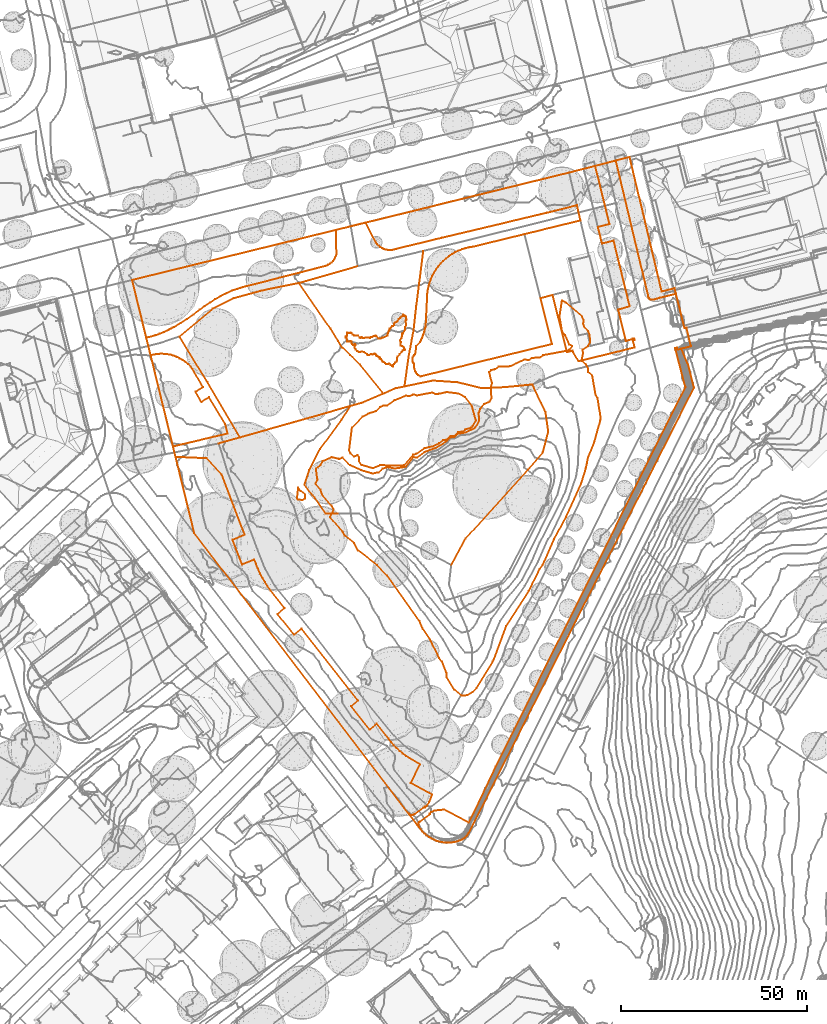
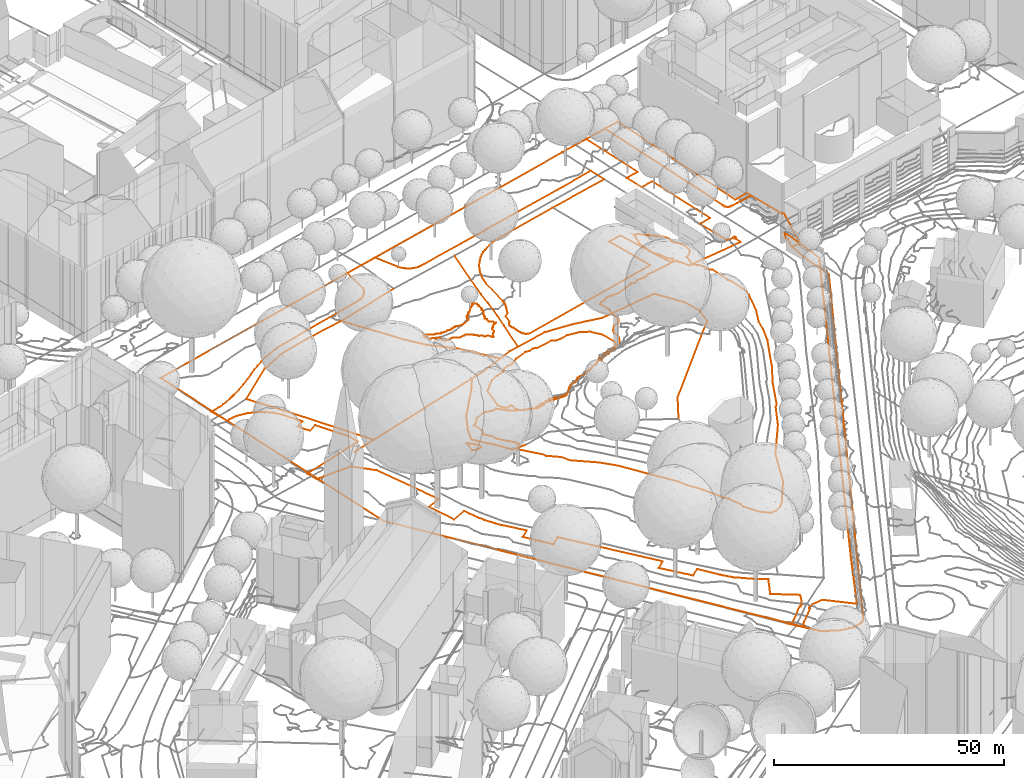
# Not in any storey, part 163 of 477: 18 civil elements, 4 geographic elements.
"""IFC4 model written with IfcOpenShell, lengths in metres."""

from ifc_helpers import new_model, entity, si_unit, frame, origin_with_axes, place, context, subcontext, project, spatial, element, save


model = new_model("IFC4")

# Units and contexts
model_context = context("Model", 3, precision=1e-05, world=origin_with_axes())
body_context = subcontext(model_context, "Body", "Model", "MODEL_VIEW")
ifc_project = project(units=[si_unit("AREAUNIT", "SQUARE_METRE"), si_unit("LENGTHUNIT", "METRE")], contexts=[model_context])

# Sites
site_1_placement = place(None, origin_with_axes())
site_1 = spatial("IfcSite", under=ifc_project, at=site_1_placement, Name="Topoexport Site")
site_2_placement = place(site_1_placement, origin_with_axes())
site_2 = spatial("IfcSite", under=site_1, at=site_2_placement, Name="TPX_ROADS")

# Civil elements
civil_element_1_placement = place(site_2_placement, frame((176.7457320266, 315.7657335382, 539.155), z_axis=(0.0, 0.0, 1.0), x_axis=(1.0, 0.0, 0.0)))
element("IfcCivilElement", 1, at=civil_element_1_placement, inside=site_2, Name="Road 10", ObjectType="ROAD", context=body_context, shape_type="GeometricCurveSet", body=[
    entity("IfcGeometricCurveSet", [entity("IfcIndexedPolyCurve", entity("IfcCartesianPointList3D", [[0.0, 0.0, 0.0], [7.4880000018, -12.3349996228, 0.053], [16.298, -27.1659991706, -0.083]]))]),
])
civil_element_2_placement = place(site_2_placement, frame((187.3177320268, 286.9847344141, 538.828), z_axis=(0.0, 0.0, 1.0), x_axis=(1.0, 0.0, 0.0)))
element("IfcCivilElement", 2, at=civil_element_2_placement, inside=site_2, Name="Road 12", ObjectType="ROAD", context=body_context, shape_type="GeometricCurveSet", body=[
    entity("IfcGeometricCurveSet", [entity("IfcIndexedPolyCurve", entity("IfcCartesianPointList3D", [[5.7259999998, 1.6149999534, 0.244], [0.0, 0.0, 0.0]]))]),
])
civil_element_3_placement = place(site_2_placement, frame((176.7457320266, 315.7657335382, 539.155), z_axis=(0.0, 0.0, 1.0), x_axis=(1.0, 0.0, 0.0)))
element("IfcCivilElement", 3, at=civil_element_3_placement, inside=site_2, Name="Road 14", ObjectType="ROAD", context=body_context, shape_type="GeometricCurveSet", body=[
    entity("IfcGeometricCurveSet", [entity("IfcIndexedPolyCurve", entity("IfcCartesianPointList3D", [[32.1579999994, 14.3909995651, 0.748], [22.0260000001, 12.3349996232, 0.605], [14.5370000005, 10.2799996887, 0.52], [8.9569999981, 7.4899997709, 0.381], [0.0, 0.0, 0.0]]))]),
])
civil_element_4_placement = place(site_2_placement, frame((222.6197320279, 310.777733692, 540.078), z_axis=(0.0, 0.0, 1.0), x_axis=(1.0, 0.0, 0.0)))
element("IfcCivilElement", 4, at=civil_element_4_placement, inside=site_2, Name="Road 15", ObjectType="ROAD", context=body_context, shape_type="GeometricCurveSet", body=[
    entity("IfcGeometricCurveSet", [entity("IfcIndexedPolyCurve", entity("IfcCartesianPointList3D", [[0.0, 0.0, 0.0], [2.7309999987, -2.6469999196, 0.138], [9.0409999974, -10.3629996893, -0.108]]))]),
])
civil_element_5_placement = place(site_2_placement, frame((208.903732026, 330.1567331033, 539.903), z_axis=(0.0, 0.0, 1.0), x_axis=(1.0, 0.0, 0.0)))
element("IfcCivilElement", 5, at=civil_element_5_placement, inside=site_2, Name="Road 60", ObjectType="ROAD", context=body_context, shape_type="GeometricCurveSet", body=[
    entity("IfcGeometricCurveSet", [entity("IfcIndexedPolyCurve", entity("IfcCartesianPointList3D", [[15.8350000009, 4.5279998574, 0.297], [0.0, 0.0, 0.0]]))]),
])
civil_element_6_placement = place(site_2_placement, frame((231.6607320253, 300.4147340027, 539.97), z_axis=(0.0, 0.0, 1.0), x_axis=(1.0, 0.0, 0.0)))
element("IfcCivilElement", 6, at=civil_element_6_placement, inside=site_2, Name="Road 61", ObjectType="ROAD", context=body_context, shape_type="GeometricCurveSet", body=[
    entity("IfcGeometricCurveSet", [entity("IfcIndexedPolyCurve", entity("IfcCartesianPointList3D", [[0.0, 0.0, 0.0], [3.2349999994, 1.4009999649, -0.027], [5.6420000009, 1.8969999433, 0.046]]))]),
])
civil_element_7_placement = place(site_2_placement, frame((237.3027320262, 302.311733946, 540.016), z_axis=(0.0, 0.0, 1.0), x_axis=(1.0, 0.0, 0.0)))
element("IfcCivilElement", 7, at=civil_element_7_placement, inside=site_2, Name="Road 62", ObjectType="ROAD", context=body_context, shape_type="GeometricCurveSet", body=[
    entity("IfcGeometricCurveSet", [entity("IfcIndexedPolyCurve", entity("IfcCartesianPointList3D", [[0.0, 0.0, 0.0], [7.5780000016, 1.5599999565, 0.229], [14.1860000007, 1.1189999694, 0.295], [20.7939999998, -0.4959999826, 0.655], [27.1079999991, -0.2019999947, 1.307], [34.4499999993, 0.531999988, 1.652]]))]),
])
civil_element_8_placement = place(site_2_placement, frame((240.0457320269, 320.1217334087, 539.845), z_axis=(0.0, 0.0, 1.0), x_axis=(1.0, 0.0, 0.0)))
element("IfcCivilElement", 8, at=civil_element_8_placement, inside=site_2, Name="Road 65", ObjectType="ROAD", context=body_context, shape_type="GeometricCurveSet", body=[
    entity("IfcGeometricCurveSet", [entity("IfcIndexedPolyCurve", entity("IfcCartesianPointList3D", [[0.0, 0.0, 0.0], [0.4299999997, 3.8679998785, -0.142], [2.3159999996, 18.6479994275, 0.487]]))]),
])
civil_element_9_placement = place(site_2_placement, frame((210.3617320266, 275.9087347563, 540.775), z_axis=(0.0, 0.0, 1.0), x_axis=(1.0, 0.0, 0.0)))
element("IfcCivilElement", 9, at=civil_element_9_placement, inside=site_2, Name="Road 69", ObjectType="ROAD", context=body_context, shape_type="GeometricCurveSet", body=[
    entity("IfcGeometricCurveSet", [entity("IfcIndexedPolyCurve", entity("IfcCartesianPointList3D", [[8.9970000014, -7.8669997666, 0.244], [5.7369999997, -7.8669997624, 0.117], [2.7199999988, -3.4619998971, 0.085], [2.2609999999, -3.0319999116, 0.055], [0.0, 0.0, 0.0], [1.2919999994, 3.885999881, 0.0], [4.1519999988, 9.4959997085, -0.77], [10.0269999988, 17.4559994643, -0.894], [12.3289999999, 21.1199993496, -0.85]]))]),
])
civil_element_10_placement = place(site_2_placement, frame((193.0437320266, 288.5997343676, 539.072), z_axis=(0.0, 0.0, 1.0), x_axis=(1.0, 0.0, 0.0)))
element("IfcCivilElement", 10, at=civil_element_10_placement, inside=site_2, Name="Road 70", ObjectType="ROAD", context=body_context, shape_type="GeometricCurveSet", body=[
    entity("IfcGeometricCurveSet", [entity("IfcIndexedPolyCurve", entity("IfcCartesianPointList3D", [[0.0, 0.0, 0.0], [14.5390000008, 4.1119998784, 0.455], [29.6469999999, 8.4289997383, 0.853]]))]),
])
civil_element_11_placement = place(site_2_placement, frame((222.6907320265, 297.0287341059, 539.925), z_axis=(0.0, 0.0, 1.0), x_axis=(1.0, 0.0, 0.0)))
element("IfcCivilElement", 11, at=civil_element_11_placement, inside=site_2, Name="Road 71", ObjectType="ROAD", context=body_context, shape_type="GeometricCurveSet", body=[
    entity("IfcGeometricCurveSet", [entity("IfcIndexedPolyCurve", entity("IfcCartesianPointList3D", [[0.0, 0.0, 0.0], [3.3929999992, 0.9699999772, 0.09], [8.9699999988, 3.3859998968, 0.045]]))]),
])
civil_element_12_placement = place(site_2_placement, frame((219.4737320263, 314.4977335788, 539.821), z_axis=(0.0, 0.0, 1.0), x_axis=(1.0, 0.0, 0.0)))
element("IfcCivilElement", 12, at=civil_element_12_placement, inside=site_2, Name="Road 86", ObjectType="ROAD", context=body_context, shape_type="GeometricCurveSet", body=[
    entity("IfcGeometricCurveSet", [entity("IfcIndexedPolyCurve", entity("IfcCartesianPointList3D", [[0.0, 0.0, 0.0], [1.0300000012, -1.6679999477, 0.15], [3.1460000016, -3.7199998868, 0.257]]))]),
])
civil_element_13_placement = place(site_2_placement, frame((208.903732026, 330.1567331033, 539.903), z_axis=(0.0, 0.0, 1.0), x_axis=(1.0, 0.0, 0.0)))
element("IfcCivilElement", 13, at=civil_element_13_placement, inside=site_2, Name="Road 101", ObjectType="ROAD", context=body_context, shape_type="GeometricCurveSet", body=[
    entity("IfcGeometricCurveSet", [entity("IfcIndexedPolyCurve", entity("IfcCartesianPointList3D", [[0.0, 0.0, 0.0], [8.5170000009, -12.3349996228, -0.381], [10.5700000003, -15.6589995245, -0.082]]))]),
])
civil_element_14_placement = place(site_2_placement, frame((237.3027320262, 302.311733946, 540.016), z_axis=(0.0, 0.0, 1.0), x_axis=(1.0, 0.0, 0.0)))
element("IfcCivilElement", 14, at=civil_element_14_placement, inside=site_2, Name="Road 102", ObjectType="ROAD", context=body_context, shape_type="GeometricCurveSet", body=[
    entity("IfcGeometricCurveSet", [entity("IfcIndexedPolyCurve", entity("IfcCartesianPointList3D", [[0.0, 0.0, 0.0], [1.1160000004, 8.0219997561, 0.339], [1.9519999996, 12.4769996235, 0.08]]))]),
])
civil_element_15_placement = place(site_2_placement, frame((249.8727320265, 254.238735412, 545.582), z_axis=(0.0, 0.0, 1.0), x_axis=(1.0, 0.0, 0.0)))
element("IfcCivilElement", 15, at=civil_element_15_placement, inside=site_2, Name="Road 105", ObjectType="ROAD", context=body_context, shape_type="GeometricCurveSet", body=[
    entity("IfcGeometricCurveSet", [entity("IfcIndexedPolyCurve", entity("IfcCartesianPointList3D", [[0.0, 0.0, 0.0], [3.8189999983, 7.0479997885, 0.132], [20.7049999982, 25.6969992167, -0.144], [24.6699999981, 30.2499990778, -1.047], [26.1389999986, 35.9769989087, -2.265], [25.4050000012, 41.1159987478, -2.9], [21.879999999, 48.604998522, -3.914]]))]),
])
civil_element_16_placement = place(site_2_placement, frame((239.2547320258, 314.7887335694, 540.096), z_axis=(0.0, 0.0, 1.0), x_axis=(1.0, 0.0, 0.0)))
element("IfcCivilElement", 16, at=civil_element_16_placement, inside=site_2, Name="Road 140", ObjectType="ROAD", context=body_context, shape_type="GeometricCurveSet", body=[
    entity("IfcGeometricCurveSet", [entity("IfcIndexedPolyCurve", entity("IfcCartesianPointList3D", [[0.0, 0.0, 0.0], [0.4869999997, 2.5929999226, -0.151], [0.7910000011, 5.3329998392, -0.251]]))]),
])

# Site
site_3_placement = place(site_1_placement, origin_with_axes())
site_3 = spatial("IfcSite", under=site_1, at=site_3_placement, Name="TPX_ROADS_OUTLINES")

# Civil elements
civil_element_17_placement = place(site_3_placement, frame((221.4727320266, 315.5197160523, 539.9451337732), z_axis=(0.0, 0.0, 1.0), x_axis=(1.0, 0.0, 0.0)))
element("IfcCivilElement", 17, at=civil_element_17_placement, inside=site_3, Name="Roads Outline 65", ObjectType="ROAD", context=body_context, shape_type="GeometricCurveSet", body=[
    entity("IfcGeometricCurveSet", [entity("IfcIndexedPolyCurve", entity("IfcCartesianPointList3D", [[0.0, 0.0, 0.0], [0.034, 0.1970000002, -0.032868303], [0.2380000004, 0.2820000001, -0.0645356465], [0.3230000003, 0.537, -0.1180079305], [0.3740000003, 0.757, -0.1636740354], [0.4590000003, 1.148, -0.2474366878], [0.3910000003, 1.267, -0.255806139], [0.5430000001, 1.334, -0.2913111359], [0.747, 1.165, -0.2910893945], [1.2350000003, 1.2180000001, -0.3659965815], [1.358, 1.2320000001, -0.3843086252], [1.5950000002, 1.1300000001, -0.4012720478], [1.9010000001, 0.7820000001, -0.3715563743], [2.3080000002, 0.544, -0.3727286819], [2.8680000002, 0.5430000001, -0.4157295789], [3.2749999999, 0.4240000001, -0.379114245], [3.801, -0.068, -0.2208087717], [4.0380000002, -0.1869999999, -0.1619115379], [4.1570000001, -0.0009999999, -0.2052259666], [4.3100000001, 0.0330000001, -0.1991757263], [4.4790000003, -0.0859999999, -0.148985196], [4.7170000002, -0.1709999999, -0.1047813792], [5.3110000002, -0.1029999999, -0.1232165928], [5.6329999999, -0.0009999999, -0.1478464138], [5.9890000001, -0.0019999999, -0.1287256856], [6.5660000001, -0.1379999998, -0.0546973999], [6.872, 0.1170000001, -0.0972614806], [7.0920000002, 0.1330000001, -0.0808258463], [7.466, 0.3030000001, -0.1070623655], [7.5560000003, 0.3930000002, -0.1312746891], [7.7600000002, 0.3830000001, -0.1030834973], [7.9939999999, 0.4940000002, -0.1030735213], [8.1060000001, 0.4430000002, -0.0647691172], [8.1570000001, 0.321, -0.0104298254], [8.2790000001, 0.1680000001, 0.0685322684], [8.8800000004, -0.2799999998, 0.3100159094], [9.1150000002, -0.352, 0.3639315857], [9.3280000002, -0.311, 0.3900332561], [9.9790000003, -0.108, 0.4792357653], [11.3130000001, 0.4720000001, 0.5130965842], [11.3130000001, 0.594, 0.4791731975], [11.3430000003, 0.9200000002, 0.3918183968], [11.4350000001, 1.1540000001, 0.3403779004], [11.5270000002, 1.5720000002, 0.2519339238], [11.71, 1.8260000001, 0.2290435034], [11.8420000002, 2.1780000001, 0.1361270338], [11.8829999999, 2.361, 0.0633937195], [12.1680000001, 2.6160000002, -0.0603835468], [12.5350000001, 3.013, -0.2530746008], [12.7690000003, 3.084, -0.2956663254], [12.9720000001, 3.3080000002, -0.3198870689], [13.085, 3.7350000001, -0.3456882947], [13.3080000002, 4.0310000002, -0.3444187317], [13.6550000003, 4.1530000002, -0.3113091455], [13.98, 4.3770000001, -0.2647283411], [14.2550000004, 4.9370000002, -0.2264956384], [14.673, 5.1400000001, -0.1753261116], [14.8149999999, 5.3130000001, -0.1567959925], [14.9960000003, 5.534, -0.1311807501], [15.0220000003, 5.581, -0.1267432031], [15.0390000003, 5.588, -0.1246061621], [15.1000000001, 5.6130000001, -0.116869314], [15.4870000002, 5.7710000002, -0.0651701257], [15.4569999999, 5.8830000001, -0.0631470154], [15.4870000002, 6.1170000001, -0.0475360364], [15.5890000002, 6.0560000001, -0.0374588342], [15.7560000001, 5.868, -0.0348617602], [16.037, 5.7660000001, -0.0456951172], [16.2200000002, 5.6330000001, -0.0522447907], [16.2200000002, 5.409, -0.0576143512], [16.3020000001, 5.0720000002, -0.0593004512], [16.3630000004, 4.7560000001, -0.0485248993], [16.253, 4.6360000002, -0.0453179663], [16.139, 4.5120000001, -0.0409356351], [16.25, 3.6660000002, 0.0045509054], [16.2200000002, 3.3460000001, 0.0263024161], [16.199, 3.132, 0.0409352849], [15.9550000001, 2.7960000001, 0.0661226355], [16.0060000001, 2.2960000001, 0.1080188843], [15.9920000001, 2.1200000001, 0.1243075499], [15.9850000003, 2.0320000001, 0.1375517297], [15.4360000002, 1.1310000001, 0.2780235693], [15.395, 1.0650000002, 0.282978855], [15.2420000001, 0.953, 0.2893640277], [15.1810000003, 0.3930000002, 0.3507606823], [15.0649999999, -0.0089999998, 0.3844598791], [15.0290000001, -0.1359999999, 0.3901935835], [14.6010000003, -0.8439999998, 0.4800365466], [14.8770000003, -1.2609999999, 0.4577541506], [14.7650000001, -1.3319999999, 0.4798780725], [14.8160000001, -2.2279999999, 0.4669274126], [15.1830000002, -2.3499999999, 0.4055788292], [15.6310000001, -2.645, 0.3423323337], [15.7430000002, -2.9399999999, 0.3348084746], [16.0079999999, -3.2859999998, 0.3362841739], [15.824, -3.3979999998, 0.3331442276], [15.6410000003, -3.419, 0.3382346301], [15.3149999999, -3.561, 0.3762349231], [15.0419999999, -3.9339999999, 0.4194563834], [14.4909999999, -4.5109999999, 0.5651845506], [14.497, -4.6819999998, 0.5749290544], [13.9470000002, -5.2309999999, 0.7326937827], [13.8620000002, -5.5799999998, 0.7676782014], [13.7760000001, -5.7379999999, 0.7969798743], [13.807, -6.2209999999, 0.7255946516], [13.6540000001, -6.541, 0.6988296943], [13.2579999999, -6.7649999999, 0.6825437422], [13.0130000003, -7.2379999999, 0.5730481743], [12.7960000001, -7.4939999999, 0.517055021], [12.8149999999, -7.831, 0.4238744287], [12.5390000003, -7.76, 0.4717449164], [12.1490000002, -7.4039999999, 0.6355796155], [11.6740000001, -7.115, 0.8135387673], [11.3000000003, -7.149, 0.836870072], [10.8760000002, -7.2509999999, 0.855674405], [10.6040000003, -6.8609999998, 0.9436707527], [10.2480000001, -6.5899999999, 0.9341286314], [9.8910000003, -6.4709999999, 0.9284314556], [9.7560000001, -6.183, 0.9204479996], [9.5690000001, -5.9109999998, 0.9130241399], [9.3480000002, -5.8439999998, 0.9102385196], [9.1440000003, -5.6569999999, 0.8955964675], [9.1950000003, -5.4199999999, 0.8781022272], [8.9240000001, -5.25, 0.8662569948], [8.5160000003, -4.9779999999, 0.8487993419], [8.1940000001, -4.8419999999, 0.8348933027], [8.1430000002, -4.5789999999, 0.8100408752], [7.736, -4.426, 0.7922193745], [7.2949999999, -4.6129999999, 0.8100888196], [6.8880000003, -4.4939999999, 0.799089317], [6.3620000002, -4.7649999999, 0.8215538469], [5.9380000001, -4.781, 0.8177898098], [5.7000000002, -4.5599999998, 0.7970141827], [4.8859999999, -3.9479999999, 0.6999935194], [4.3260000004, -3.8459999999, 0.6413580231], [3.5789999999, -3.9469999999, 0.52139075], [3.0870000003, -3.7259999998, 0.4582847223], [2.6770000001, -3.338, 0.4396057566], [2.6130000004, -3.132, 0.4560702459], [2.4510000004, -2.7799999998, 0.4453376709], [2.409, -2.6899999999, 0.4232399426], [2.477, -2.2319999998, 0.3595035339], [2.6470000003, -2.0279999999, 0.3299549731], [2.4939999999, -1.858, 0.2970497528], [2.2560000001, -1.96, 0.312134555], [2.0360000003, -2.0109999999, 0.3131584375], [1.6800000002, -1.8069999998, 0.2961074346], [1.5950000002, -1.5179999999, 0.2172752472], [1.5440000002, -1.179, 0.1313771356], [1.3570000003, -1.0599999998, 0.1155818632], [0.798, -1.1609999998, 0.1732617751], [0.3900000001, -1.1779999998, 0.1654008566], [0.3900000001, -1.095, 0.1574758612], [0.3900000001, -1.0079999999, 0.1491689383], [0.4240000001, -0.5839999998, 0.0839703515], [0.3060000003, -0.176, 0.0117546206], [0.0, 0.0, 0.0]]))]),
])
civil_element_18_placement = place(site_3_placement, frame((167.7977320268, 315.4537160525, 539.1190123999), z_axis=(0.0, 0.0, 1.0), x_axis=(1.0, 0.0, 0.0)))
element("IfcCivilElement", 18, at=civil_element_18_placement, inside=site_3, Name="Roads Outline 88", ObjectType="ROAD", context=body_context, shape_type="GeometricCurveSet", body=[
    entity("IfcGeometricCurveSet", [entity("IfcIndexedPolyCurve", entity("IfcCartesianPointList3D", [[0.0, 0.0, 0.0], [1.23, 0.2749999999, 0.0247682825], [2.4419999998, 0.622, 0.0418491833], [3.6310000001, 1.0389999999, 0.0828519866], [4.7939999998, 1.5249999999, 0.1121502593], [5.9270000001, 2.078, 0.1517853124], [6.3079999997, 2.273, 0.1626908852], [6.6919999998, 2.4620000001, 0.1724767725], [7.0729999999, 2.6539999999, 0.1835700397], [7.4470000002, 2.8599999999, 0.1937299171], [9.2280000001, 3.9239999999, 0.2538667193], [10.9699999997, 5.0489999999, 0.3406741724], [12.673, 6.2349999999, 0.3969343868], [14.3319999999, 7.48, 0.4475886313], [15.7029999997, 8.4979999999, 0.5061658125], [17.1159999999, 9.459, 0.5333646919], [18.5669999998, 10.3599999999, 0.5216708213], [20.054, 11.2, 0.5452682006], [21.5749999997, 11.977, 0.5502667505], [23.1269999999, 12.6899999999, 0.621900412], [24.409, 13.122, 0.6414065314], [25.7069999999, 13.5079999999, 0.6457259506], [27.017, 13.8459999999, 0.6606235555], [36.0749999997, 16.176, 0.8224961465], [45.6299999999, 18.628, 0.9505541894], [48.5079999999, 19.3840000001, 1.0211709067], [48.9980000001, 19.6099999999, 1.0363624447], [49.4559999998, 19.8959999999, 1.0636517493], [49.875, 20.236, 1.0910575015], [50.2480000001, 20.625, 1.1108906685], [50.5699999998, 21.058, 1.119086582], [50.8360000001, 21.527, 1.1349815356], [51.0409999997, 22.0260000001, 1.1584559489], [51.1829999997, 22.547, 1.1813867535], [51.057, 28.9979999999, 1.4121354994], [59.0490000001, 30.9620000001, 1.4512466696], [61.8079999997, 25.638, 1.2332053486], [62.1400000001, 25.1839999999, 1.223659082], [62.5260000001, 24.7760000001, 1.2173980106], [62.96, 24.419, 1.2155958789], [63.4350000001, 24.1199999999, 1.2076188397], [63.9449999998, 23.8829999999, 1.1877098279], [64.48, 23.7120000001, 1.1826396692], [65.0329999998, 23.6089999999, 1.1826437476], [65.594, 23.577, 1.1808178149], [66.1540000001, 23.6159999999, 1.1845281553], [66.7059999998, 23.7249999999, 1.1892558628], [67.2390000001, 23.902, 1.1950226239], [78.0649999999, 26.504, 1.2867964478], [79.6359999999, 26.889, 1.3133347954], [106.3089999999, 33.2409999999, 1.6732010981], [107.8789999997, 33.622, 1.6832727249], [115.9249999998, 35.649, 1.7806102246], [116.898, 31.544, 1.6638894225], [101.8169999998, 27.858, 1.6404392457], [88.0010000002, 24.473, 1.4170740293], [87.0, 24.3200000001, 1.3737373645], [86.0129999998, 24.0959999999, 1.3122562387], [85.0449999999, 23.8, 1.2736646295], [84.1000000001, 23.436, 1.2231697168], [83.1839999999, 23.004, 1.1887243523], [82.3020000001, 22.5079999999, 1.1771721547], [81.4569999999, 21.949, 1.1588859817], [80.656, 21.331, 1.178832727], [79.9010000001, 20.656, 1.2104499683], [79.196, 19.929, 1.2222075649], [78.5460000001, 19.1529999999, 1.1966565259], [77.9539999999, 18.3319999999, 1.1546735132], [77.4219999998, 17.47, 1.0927785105], [76.9539999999, 16.5719999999, 1.0256709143], [76.5520000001, 15.6429999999, 0.9550855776], [76.2179999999, 14.6869999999, 0.8982017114], [75.9539999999, 13.71, 0.8575851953], [75.7609999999, 12.716, 0.8104525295], [75.6400000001, 11.7109999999, 0.7646408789], [75.227, 3.5719999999, 0.967397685], [75.1260000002, 2.8829999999, 1.0286340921], [74.983, 2.2009999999, 1.0824014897], [74.9389999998, 2.024, 1.1072632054], [74.892, 1.8470000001, 1.1307639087], [74.7689999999, 1.429, 1.1800219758], [74.6299999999, 1.0149999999, 1.2049191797], [74.4890000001, 0.639, 1.2044462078], [74.335, 0.2679999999, 1.1930262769], [74.2039999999, -0.067, 1.1881508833], [73.9529999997, -0.6699999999, 1.1874007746], [73.6850000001, -1.2650000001, 1.2009177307], [72.6829999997, -2.267, 1.2418795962], [72.398, -4.486, 1.3121913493], [72.1179999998, -4.7210000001, 1.2992383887], [71.8930000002, -5.01, 1.2894331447], [71.736, -5.3400000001, 1.2844921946], [71.6510000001, -5.696, 1.2850829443], [71.6439999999, -6.0619999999, 1.2769994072], [71.7140000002, -6.4210000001, 1.270053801], [71.8590000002, -6.757, 1.2694203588], [72.071, -7.0549999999, 1.2787490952], [72.057, -7.541, 1.2691529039], [72.105, -8.0250000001, 1.2563769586], [72.213, -8.4990000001, 1.2388046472], [72.3810000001, -8.956, 1.217708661], [72.6060000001, -9.388, 1.1956496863], [72.8829999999, -9.787, 1.1700826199], [73.2080000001, -10.149, 1.1795551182], [73.821, -10.442, 1.2056348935], [109.2149999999, -1.72, 1.7118456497], [106.1299999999, 10.615, 1.6020691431], [109.3969999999, 11.4809999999, 1.5600288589], [113.2510000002, -3.906, 2.3029735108], [114.827, -3.517, 2.0630988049], [114.923, -3.905, 2.067803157], [116.3769999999, -6.3489999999, 1.9570229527], [131.5069999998, -2.645, 0.6462606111], [131.0060000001, -0.8090000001, 0.6326984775], [131.4909999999, -0.686, 0.5929234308], [131.3689999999, -0.202, 0.5887255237], [130.8840000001, -0.324, 0.6409020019], [130.9079999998, -0.4199999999, 0.6387613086], [129.1310000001, -0.8670000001, 0.8788356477], [127.0600000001, 7.554, 0.8088673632], [127.4890000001, 7.6739999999, 0.7622808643], [130.1639999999, 8.425, 0.7708454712], [125.8089999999, 26.0970000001, 1.2899789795], [123.1680000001, 25.4469999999, 1.2818078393], [122.6889999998, 25.3289999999, 1.2910866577], [121.588, 29.804, 1.4678332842], [122.068, 29.922, 1.4667258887], [124.7059999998, 30.571, 1.494156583], [120.8459999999, 46.233, 2.0636904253], [120.8590000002, 46.237, 2.06439677], [126.4070000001, 47.673, 2.02311273], [135.0919999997, 11.3969999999, 0.6650601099], [135.102, 11.1059999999, 0.6661332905], [135.1880000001, 10.828, 0.6454258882], [135.3449999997, 10.5819999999, 0.6247838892], [135.5600000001, 10.3859999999, 0.6073768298], [135.8190000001, 10.253, 0.5982929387], [136.1039999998, 10.1939999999, 0.5950590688], [136.395, 10.2109999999, 0.5922139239], [136.6710000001, 10.304, 0.5861962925], [138.3199999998, 10.7239999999, 0.488661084], [142.5819999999, 11.8089999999, 0.3420835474], [144.8939999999, 2.5889999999, 0.3526834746], [145.4040000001, 2.709, 0.3502368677], [146.6439999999, -2.341, -5.2313089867], [146.432, -2.3929999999, -5.2436507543], [144.0320000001, -2.98, -4.7871117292], [143.003, -3.2320000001, -2.1408371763], [142.8760000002, -2.75, -2.1907489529], [142.392, -2.8770000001, -0.6498669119], [142.5189999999, -3.3589999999, -0.4944391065], [145.125, -13.257, -2.0117076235], [94.0690000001, -115.4890000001, -2.0948531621], [86.8279999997, -130.6230000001, -2.2323743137], [80.1319999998, -127.064, -0.9714893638], [77.5899999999, -127.3430000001, -1.0788913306], [76.6829999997, -127.777, -1.1398480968], [76.2229999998, -128.1140000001, -1.217925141], [76.3649999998, -128.308, -1.2043424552], [73.693, -130.2709999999, -2.7361494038], [73.4819999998, -130.4739999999, -2.8656039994], [73.3300000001, -130.7250000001, -2.9745926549], [73.2489999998, -131.007, -3.0815037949], [73.2439999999, -131.3, -3.1489841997], [73.3149999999, -131.584, -3.184297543], [73.4580000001, -131.8400000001, -3.1874261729], [70.6809999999, -128.2040000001, -3.2684583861], [70.9019999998, -128.3770000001, -3.2804389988], [71.1570000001, -128.4939999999, -3.2809493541], [71.4329999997, -128.5460000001, -3.2535916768], [71.7140000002, -128.5320000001, -3.1586144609], [71.983, -128.452, -3.0439791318], [72.2250000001, -128.3100000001, -2.9152179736], [74.8730000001, -126.3049999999, -1.3330918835], [75.0180000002, -126.496, -1.3188504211], [75.4729999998, -126.152, -1.1691149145], [76.1600000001, -124.996, -1.0796673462], [76.9339999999, -123.048, -0.9712881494], [71.21, -119.8929999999, -0.6533056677], [73.6379999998, -114.8900000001, -0.5353668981], [70.8969999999, -113.2679999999, -0.532951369], [70.8879999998, -113.2380000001, -0.5327554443], [69.9509999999, -112.632, -0.4967809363], [69.0520000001, -111.9720000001, -0.4653612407], [68.193, -111.2609999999, -0.4917337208], [67.378, -110.5, -0.5794491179], [66.6090000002, -109.692, -0.556969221], [65.8879999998, -108.8400000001, -0.5849159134], [65.219, -107.9480000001, -0.602107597], [62.0150000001, -103.9450000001, -0.4566242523], [60.1209999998, -105.5449999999, -0.5537252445], [55.1299999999, -99.2679999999, -0.6205194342], [57.0010000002, -97.672, -0.4736681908], [41.7760000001, -78.3530000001, -0.4519177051], [39.7820000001, -79.9480000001, -0.7221621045], [35.3130000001, -74.3959999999, -0.5014826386], [37.2259999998, -72.78, -0.430920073], [33.5039999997, -68.0919999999, -0.5242395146], [32.7029999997, -66.9920000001, -0.5036792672], [31.9550000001, -65.855, -0.4710563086], [31.2629999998, -64.683, -0.4507716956], [30.628, -63.48, -0.4294886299], [30.051, -62.2480000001, -0.4048566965], [29.5329999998, -60.9890000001, -0.3785168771], [29.077, -59.7069999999, -0.3286873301], [25.8029999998, -61.0549999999, -0.6157022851], [23.179, -54.4350000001, -0.392617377], [26.4929999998, -53.095, -0.2904464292], [20.3139999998, -36.8290000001, -0.3418651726], [16.2709999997, -32.49, -0.5566903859], [7.8879999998, -32.1140000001, -1.2005508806], [7.1949999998, -29.2960000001, -1.215604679], [21.889, -25.8300000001, 0.0348052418], [21.2579999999, -23.28, 0.0536242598], [16.8489999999, -16.0360000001, 0.204409], [14.8279999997, -17.298, 0.2311249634], [13.2259999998, -14.5900000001, 0.2540834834], [15.2480000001, -13.3290000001, 0.1844319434], [12.4380000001, -8.452, 0.1062723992], [11.8569999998, -7.7660000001, 0.1084622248], [11.2199999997, -7.132, 0.1095255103], [10.5320000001, -6.554, 0.1109810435], [9.7969999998, -6.0360000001, 0.1014966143], [9.0209999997, -5.5819999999, 0.114182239], [8.21, -5.196, 0.146653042], [7.3679999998, -4.8800000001, 0.1419173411], [6.503, -4.6359999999, 0.1392912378], [5.6209999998, -4.4669999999, 0.1083604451], [4.727, -4.3730000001, 0.1113422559], [3.8279999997, -4.355, 0.1566777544], [2.9309999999, -4.4129999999, 0.1362928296], [2.0419999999, -4.5460000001, 0.0647391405], [1.1680000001, -4.7550000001, 0.0281299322], [0.0, 0.0, 0.0]]))]),
])

# Site
site_4_placement = place(site_1_placement, origin_with_axes())
site_4 = spatial("IfcSite", under=site_1, at=site_4_placement, Name="TPX_CADASTRES")

# Geographic element
geographic_element_1_placement = place(site_4_placement, frame((163.9887320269, 330.9667160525, 539.9991781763), z_axis=(0.0, 0.0, 1.0), x_axis=(1.0, 0.0, 0.0)))
element("IfcGeographicElement", 19, at=geographic_element_1_placement, inside=site_4, Name="Cadastre 5", PredefinedType="NOTDEFINED", context=body_context, shape_type="GeometricCurveSet", body=[
    entity("IfcGeometricCurveSet", [entity("IfcIndexedPolyCurve", entity("IfcCartesianPointList3D", [[0.0, 0.0, 0.0], [117.656, 28.9099999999, 1.2242919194], [133.929, 33.1199999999, 1.0876846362], [142.5669999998, -3.0930000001, -0.6893949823], [146.0219999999, -2.233, -0.5583136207], [148.7029999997, -12.9240000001, -0.5274823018], [149.213, -12.804, -0.5299289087], [150.4529999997, -17.8540000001, -6.1114747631], [147.841, -18.493, -5.6672775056], [149.6809999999, -22.831, -7.4376878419], [151.2279999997, -28.959, -7.8872139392], [90.605, -148.8940000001, -5.1347359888], [90.338, -149.3430000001, -5.1719771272], [90.014, -149.7520000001, -5.0969268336], [89.6369999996, -150.1130000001, -5.0735767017], [89.2149999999, -150.4210000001, -5.1062546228], [88.7560000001, -150.669, -4.9828618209], [88.0419999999, -150.959, -4.8724821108], [87.307, -151.1880000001, -4.8934175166], [86.554, -151.3540000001, -4.8416267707], [85.7909999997, -151.4570000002, -4.6712733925], [85.0209999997, -151.4950000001, -4.5468812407], [84.2519999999, -151.4680000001, -4.4873598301], [83.4869999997, -151.3770000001, -4.4492794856], [82.7319999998, -151.2210000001, -4.384160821], [81.9929999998, -151.0020000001, -4.2356118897], [81.2749999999, -150.7220000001, -4.1893830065], [80.5829999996, -150.382, -4.2677957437], [79.9219999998, -149.986, -4.2010340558], [79.2969999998, -149.5350000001, -4.2910561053], [78.7109999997, -149.0330000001, -4.1280212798], [78.1709999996, -148.4840000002, -4.065973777], [77.6779999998, -147.8910000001, -4.0521186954], [16.7229999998, -68.0930000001, -2.5447763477], [0.0, 0.0, 0.0]]))]),
])

# Site
site_5_placement = place(site_1_placement, origin_with_axes())
site_5 = spatial("IfcSite", under=site_1, at=site_5_placement, Name="TPX_CONTOUR_LINES")

# Geographic elements
geographic_element_2_placement = place(site_5_placement, frame((222.3997096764, 285.1707160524, 540.0), z_axis=(0.0, 0.0, 1.0), x_axis=(1.0, 0.0, 0.0)))
element("IfcGeographicElement", 20, at=geographic_element_2_placement, inside=site_5, Name="Contour Line 540.0 m", PredefinedType="NOTDEFINED", context=body_context, shape_type="GeometricCurveSet", body=[
    entity("IfcGeometricCurveSet", [entity("IfcIndexedPolyCurve", entity("IfcCartesianPointList3D", [[14.2780223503, -4.200677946, 0.0], [14.8418956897, -4.0, 0.0], [17.2780223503, -1.2704251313, 0.0], [18.1569128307, -1.0, 0.0], [20.2780223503, 0.5239472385, 0.0], [22.5003856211, 1.0, 0.0], [24.2780223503, 1.8492537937, 0.0], [25.2780223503, 2.6595540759, 0.0], [26.2780223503, 2.8440700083, 0.0], [27.2780223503, 3.8352576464, 0.0], [28.2780223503, 3.8353741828, 0.0], [29.2780223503, 4.8255260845, 0.0], [30.7136665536, 5.0, 0.0], [31.2780223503, 5.5643557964, 0.0], [32.8226039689, 6.0, 0.0], [33.2780223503, 6.4642210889, 0.0], [34.1294163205, 8.0, 0.0], [33.0236827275, 12.0, 0.0], [31.2780223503, 14.274414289, 0.0], [29.2780223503, 15.2204148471, 0.0], [26.2780223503, 15.6066552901, 0.0], [24.2780223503, 15.1576212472, 0.0], [23.2780223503, 15.0968250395, 0.0], [22.2780223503, 15.4865372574, 0.0], [18.2780223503, 14.7055376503, 0.0], [17.2780223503, 14.9908092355, 0.0], [16.2780223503, 14.5048675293, 0.0], [15.2780223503, 14.6664239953, 0.0], [12.2780223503, 13.4125895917, 0.0], [10.2780223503, 12.0114772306, 0.0], [9.2780223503, 11.9978425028, 0.0], [8.2780223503, 11.5651754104, 0.0], [7.2780223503, 10.4851485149, 0.0], [5.2780223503, 9.8719856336, 0.0], [3.6165961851, 9.0, 0.0], [0.7471531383, 6.0, 0.0], [0.0, 0.0, 0.0], [0.3843429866, -1.0, 0.0], [1.2780223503, -1.8023299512, 0.0], [2.2780223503, -1.3032928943, 0.0], [2.7261828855, -2.0, 0.0], [2.6151100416, -3.0, 0.0], [3.3492197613, -4.0, 0.0], [6.2780223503, -4.8955420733, 0.0], [8.2780223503, -4.0744129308, 0.0], [14.2780223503, -4.200677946, 0.0]]))]),
])
geographic_element_3_placement = place(site_5_placement, frame((208.3568235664, 272.1707160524, 541.0), z_axis=(0.0, 0.0, 1.0), x_axis=(1.0, 0.0, 0.0)))
element("IfcGeographicElement", 21, at=geographic_element_3_placement, inside=site_5, Name="Contour Line 541.0 m", PredefinedType="NOTDEFINED", context=body_context, shape_type="GeometricCurveSet", body=[
    entity("IfcGeometricCurveSet", [entity("IfcIndexedPolyCurve", entity("IfcCartesianPointList3D", [[2.2368870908, 0.0, 0.0], [1.3209084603, -0.466312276, 0.0], [0.3209084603, -0.3096871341, 0.0], [0.0, 0.0, 0.0], [0.3209084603, 2.9313276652, 0.0], [0.9807787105, 2.0, 0.0], [2.2258290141, 1.0, 0.0], [2.2368870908, 0.0, 0.0]]))]),
])
geographic_element_4_placement = place(site_5_placement, frame((213.3358150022, 276.1707160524, 541.0), z_axis=(0.0, 0.0, 1.0), x_axis=(1.0, 0.0, 0.0)))
element("IfcGeographicElement", 22, at=geographic_element_4_placement, inside=site_5, Name="Contour Line 541.0 m", PredefinedType="NOTDEFINED", context=body_context, shape_type="GeometricCurveSet", body=[
    entity("IfcGeometricCurveSet", [entity("IfcIndexedPolyCurve", entity("IfcCartesianPointList3D", [[40.8499908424, -57.0, 0.0], [39.3419170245, -57.120443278, 0.0], [37.3419170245, -55.4478935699, 0.0], [35.3419170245, -52.1289571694, 0.0], [35.2757031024, -51.0, 0.0], [34.0927132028, -48.0, 0.0], [33.325232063, -47.0, 0.0], [30.8846400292, -42.0, 0.0], [28.8460785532, -39.0, 0.0], [27.9934235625, -37.0, 0.0], [19.3419170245, -24.852967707, 0.0], [16.6168691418, -22.0, 0.0], [11.4560665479, -18.0, 0.0], [10.4141083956, -16.0, 0.0], [7.8797140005, -14.0, 0.0], [7.3419170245, -12.93687231, 0.0], [3.8810185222, -9.0, 0.0], [4.9204837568, -7.0, 0.0], [4.3641480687, -6.0, 0.0], [1.7589156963, -3.0, 0.0], [1.3419170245, -1.6004962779, 0.0], [0.0, 0.0, 0.0], [0.5062149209, 1.0, 0.0], [0.1223091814, 4.0, 0.0], [1.3419170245, 4.9446883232, 0.0], [1.9587603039, 6.0, 0.0], [4.3419170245, 7.0641504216, 0.0], [6.3419170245, 6.6253265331, 0.0], [7.3419170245, 6.9625085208, 0.0], [9.3419170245, 4.9039177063, 0.0], [12.3419170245, 3.5551418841, 0.0], [15.3419170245, 2.682076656, 0.0], [17.0066841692, 3.0, 0.0], [18.1144706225, 4.0, 0.0], [19.3419170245, 4.404321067, 0.0], [21.3419170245, 4.0214467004, 0.0], [23.3419170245, 4.3121524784, 0.0], [24.3419170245, 4.5995408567, 0.0], [26.3419170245, 7.0730857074, 0.0], [27.3419170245, 6.9854046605, 0.0], [29.3419170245, 8.4904125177, 0.0], [32.3419170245, 9.5328644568, 0.0], [35.3419170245, 11.3793152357, 0.0], [36.3419170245, 12.4353259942, 0.0], [37.3419170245, 12.4357254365, 0.0], [38.3419170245, 13.4019699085, 0.0], [40.3419170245, 13.7070056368, 0.0], [43.0331701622, 15.0, 0.0], [44.0821925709, 17.0, 0.0], [43.9453804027, 19.0, 0.0], [44.3419170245, 20.0501603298, 0.0], [45.3419170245, 21.428918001, 0.0], [46.814811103, 22.0, 0.0], [47.3827098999, 23.0, 0.0], [47.2348506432, 26.0, 0.0], [47.522361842, 27.0, 0.0], [46.7865760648, 30.0, 0.0], [47.3419170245, 30.5203953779, 0.0], [48.3419170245, 30.7648689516, 0.0], [49.3419170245, 31.4886838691, 0.0], [52.3419170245, 31.5553369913, 0.0], [56.3419170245, 33.3872661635, 0.0], [57.3419170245, 33.1909160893, 0.0], [58.3419170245, 33.8100158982, 0.0], [60.3419170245, 33.9121321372, 0.0], [61.3419170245, 34.5476051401, 0.0], [67.3419170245, 35.6704219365, 0.0], [68.3695522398, 36.0, 0.0], [69.1359875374, 37.0, 0.0], [68.3419170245, 37.437914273, 0.0], [67.2175439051, 40.0, 0.0], [66.3839764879, 41.0, 0.0], [65.7075596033, 45.0, 0.0], [66.3419170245, 49.2367458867, 0.0], [67.3419170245, 48.7508361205, 0.0], [71.7241262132, 45.0, 0.0], [72.1937688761, 44.0, 0.0], [72.0874872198, 43.0, 0.0], [72.3419170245, 42.2964824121, 0.0], [73.4292261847, 41.0, 0.0], [73.8537634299, 40.0, 0.0], [73.9033205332, 38.0, 0.0], [73.376070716, 37.0, 0.0], [71.9506126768, 36.0, 0.0], [72.0329547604, 35.0, 0.0], [71.6234387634, 33.0, 0.0], [72.8728448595, 32.0, 0.0], [73.4135094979, 31.0, 0.0], [73.424291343, 30.0, 0.0], [74.5239071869, 29.0, 0.0], [75.4068622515, 24.0, 0.0], [75.9516931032, 23.0, 0.0], [76.7504621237, 18.0, 0.0], [76.688899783, 17.0, 0.0], [75.0189485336, 11.0, 0.0], [73.374050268, 7.0, 0.0], [72.7790490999, 4.0, 0.0], [71.5159104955, 0.0, 0.0], [67.4259861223, -9.0, 0.0], [64.2198041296, -15.0, 0.0], [61.141642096, -22.0, 0.0], [60.3213375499, -23.0, 0.0], [57.4195966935, -29.0, 0.0], [51.3419170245, -38.4051540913, 0.0], [47.7470692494, -48.0, 0.0], [43.3419170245, -55.0240356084, 0.0], [42.3419170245, -56.0875118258, 0.0], [40.8499908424, -57.0, 0.0]]))]),
])

save(model, "model.ifc")
